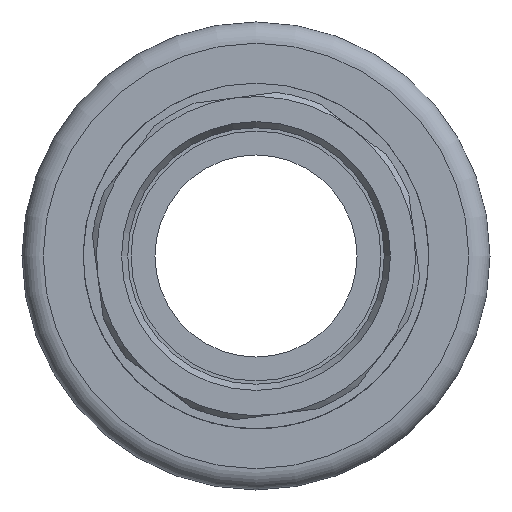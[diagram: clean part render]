
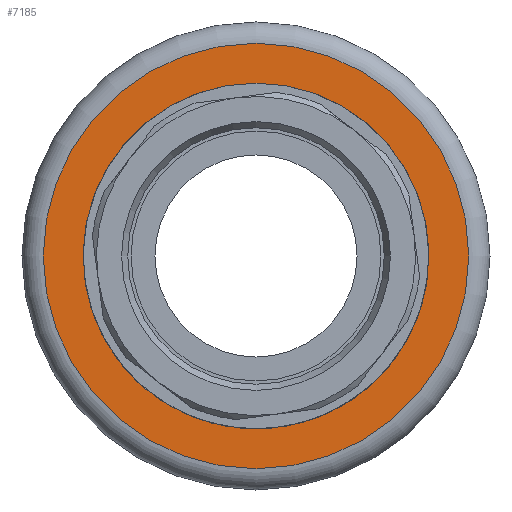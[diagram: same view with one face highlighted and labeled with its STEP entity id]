
A CAD part, left-side view. The second image highlights one B-rep face of the part: STEP entity #7185.
In plain terms, the highlighted planar face has unit normal (-1, 0, 0).
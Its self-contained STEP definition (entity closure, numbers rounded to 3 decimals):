
#110=PLANE('',#9481);
#709=CIRCLE('',#9180,16.25);
#842=CIRCLE('',#9482,20.);
#2264=ORIENTED_EDGE('',*,*,#4063,.T.);
#2265=ORIENTED_EDGE('',*,*,#3666,.F.);
#3666=EDGE_CURVE('',#4811,#4811,#709,.T.);
#4063=EDGE_CURVE('',#5016,#5016,#842,.T.);
#4811=VERTEX_POINT('',#12145);
#5016=VERTEX_POINT('',#14764);
#6064=EDGE_LOOP('',(#2264));
#6065=EDGE_LOOP('',(#2265));
#6590=FACE_BOUND('',#6064,.T.);
#6591=FACE_BOUND('',#6065,.T.);
#7185=ADVANCED_FACE('',(#6590,#6591),#110,.T.);
#9180=AXIS2_PLACEMENT_3D('',#12144,#10070,#10071);
#9481=AXIS2_PLACEMENT_3D('',#14762,#10720,#10721);
#9482=AXIS2_PLACEMENT_3D('',#14763,#10722,#10723);
#10070=DIRECTION('',(-1.,0.,0.));
#10071=DIRECTION('',(0.,0.,1.));
#10720=DIRECTION('',(-1.,0.,0.));
#10721=DIRECTION('',(0.,0.,1.));
#10722=DIRECTION('',(-1.,0.,0.));
#10723=DIRECTION('',(0.,0.,1.));
#12144=CARTESIAN_POINT('',(0.,0.,0.));
#12145=CARTESIAN_POINT('',(0.,0.,16.25));
#14762=CARTESIAN_POINT('',(0.,0.,13.5));
#14763=CARTESIAN_POINT('',(0.,0.,0.));
#14764=CARTESIAN_POINT('',(0.,0.,20.));
